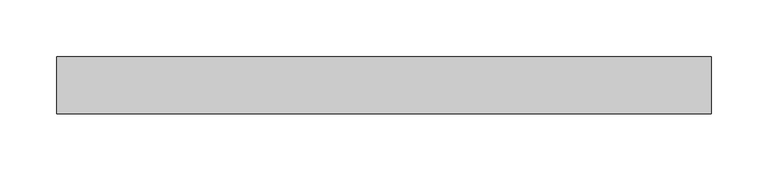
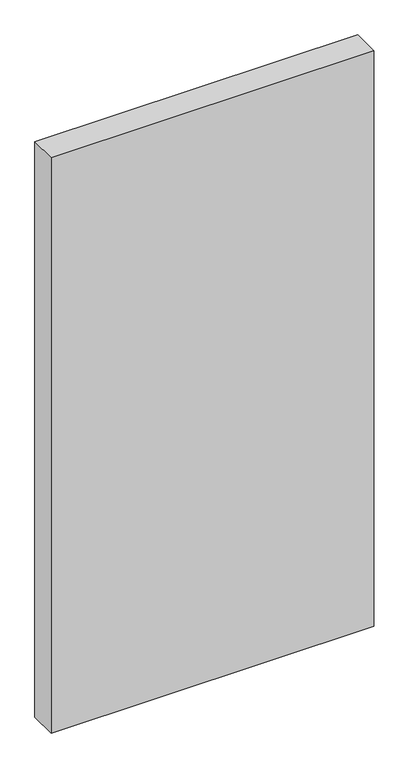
"""IFC4 building model written with IfcOpenShell, lengths in millimetres: plate geometry, Системная панель : Стекло(50мм)."""

import ifcopenshell
import ifcopenshell.guid

model = None  # the IFC model being written
_history = None  # IfcOwnerHistory: only IFC2X3 demands one
_inside = {}  # id of a spatial element -> (the spatial element, [elements in it])
_under = {}  # id of a project, library or spatial element -> (it, [spatial elements below it])
_declared = {}  # id of a project -> (the project, [libraries it declares])
_typed = {}  # id of a type object -> (the type object, [elements of that type])
_made_of = {}  # id of a material, layer set ... -> (it, [elements and type objects made of it])


def new_model(schema):
    """Start an empty IFC model of exactly this schema.

    Asked for "IFC4X3", IfcOpenShell would pick the latest addendum, in which some entities
    have other attributes; the version numbers below select the first issue.
    IFC2X3 requires an IfcOwnerHistory on every rooted entity: one is made here for all.
    """
    global model, _history
    if schema == "IFC4X3":
        model = ifcopenshell.file(schema_version=(4, 3, 0, 0))
    else:
        model = ifcopenshell.file(schema=schema)
    _inside.clear()
    _under.clear()
    _declared.clear()
    _typed.clear()
    _made_of.clear()
    _history = None
    if model.schema == "IFC2X3":
        org = make("IfcOrganization", Name="unknown")
        user = make(
            "IfcPersonAndOrganization",
            ThePerson=make("IfcPerson", FamilyName="unknown"),
            TheOrganization=org,
        )
        app = make(
            "IfcApplication",
            ApplicationDeveloper=org,
            Version="unknown",
            ApplicationFullName="unknown",
            ApplicationIdentifier="unknown",
        )
        _history = make(
            "IfcOwnerHistory",
            OwningUser=user,
            OwningApplication=app,
            ChangeAction="ADDED",
            CreationDate=0,
        )
    return model


def make(cls, **values):
    """One entity of the class cls with the attributes given. An attribute that is None is left unset."""
    return model.create_entity(
        cls, **{name: value for name, value in values.items() if value is not None}
    )


def rooted(cls, **values):
    """An entity with a GlobalId (a new one), such as an element, a storey or a relation."""
    return make(cls, GlobalId=ifcopenshell.guid.new(), OwnerHistory=_history, **values)


def si_unit(unit_type, name, prefix=None):
    """IfcSIUnit, for example si_unit("LENGTHUNIT", "METRE", prefix="MILLI")."""
    return make("IfcSIUnit", UnitType=unit_type, Prefix=prefix, Name=name)


def assignment(units):
    """IfcUnitAssignment: the units of a project."""
    return None if units is None else make("IfcUnitAssignment", Units=units)


def point(xyz):
    """IfcCartesianPoint."""
    return None if xyz is None else make("IfcCartesianPoint", Coordinates=xyz)


def direction(xyz):
    """IfcDirection."""
    return None if xyz is None else make("IfcDirection", DirectionRatios=xyz)


def frame(location, z_axis=None, x_axis=None):
    """IfcAxis2Placement3D, a coordinate frame: its origin and axes. An axis left out is left unset."""
    return make(
        "IfcAxis2Placement3D",
        Location=point(location),
        Axis=direction(z_axis),
        RefDirection=direction(x_axis),
    )


def origin():
    """The frame at (0, 0, 0) with its axes left unset."""
    return frame((0.0, 0.0, 0.0))


def origin_with_axes():
    """The frame at (0, 0, 0) with the z axis (0, 0, 1) and the x axis (1, 0, 0) written out."""
    return frame((0.0, 0.0, 0.0), z_axis=(0.0, 0.0, 1.0), x_axis=(1.0, 0.0, 0.0))


def place(relative_to, where):
    """IfcLocalPlacement: puts the frame where relative to a parent placement (None: the world)."""
    return make(
        "IfcLocalPlacement", PlacementRelTo=relative_to, RelativePlacement=where
    )


def context(
    kind, dimensions, precision=None, world=None, true_north=None, identifier=None
):
    """IfcGeometricRepresentationContext, for example the 3D "Model" context."""
    return make(
        "IfcGeometricRepresentationContext",
        ContextIdentifier=identifier,
        ContextType=kind,
        CoordinateSpaceDimension=dimensions,
        Precision=precision,
        WorldCoordinateSystem=world,
        TrueNorth=true_north,
    )


def project(units=None, contexts=None):
    """IfcProject with its units and contexts."""
    return rooted(
        "IfcProject",
        Name="project",
        RepresentationContexts=contexts,
        UnitsInContext=assignment(units),
    )


def spatial(cls, under=None, at=None, **own):
    """A site, building, storey or space (cls), placed at a placement, below another one or the project."""
    s = rooted(cls, ObjectPlacement=at, **own)
    if under is not None:
        _under.setdefault(under.id(), (under, []))[1].append(s)
    return s


def polyline(points):
    """IfcPolyline through the points."""
    return make("IfcPolyline", Points=[point(p) for p in points])


def outline(outer, holes=None, kind="AREA"):
    """IfcArbitraryClosedProfileDef: a profile drawn as a closed curve; with holes, ...WithVoids."""
    if holes is None:
        return make("IfcArbitraryClosedProfileDef", ProfileType=kind, OuterCurve=outer)
    return make(
        "IfcArbitraryProfileDefWithVoids",
        ProfileType=kind,
        OuterCurve=outer,
        InnerCurves=holes,
    )


def extrude(swept, where, along, depth):
    """IfcExtrudedAreaSolid: the profile swept, set in the frame where, extruded along a direction by depth."""
    return make(
        "IfcExtrudedAreaSolid",
        SweptArea=swept,
        Position=where,
        ExtrudedDirection=direction(along),
        Depth=depth,
    )


def shape(context_of_items, identifier, shape_type, items):
    """IfcShapeRepresentation: the items that make up one representation, for example the "Body"."""
    return make(
        "IfcShapeRepresentation",
        ContextOfItems=context_of_items,
        RepresentationIdentifier=identifier,
        RepresentationType=shape_type,
        Items=items,
    )


def source(mapping_origin, context_of_items, identifier, shape_type, items):
    """IfcRepresentationMap: a shape defined once, which mapped items show again and again."""
    return make(
        "IfcRepresentationMap",
        MappingOrigin=mapping_origin,
        MappedRepresentation=shape(context_of_items, identifier, shape_type, items),
    )


def transform(
    local_origin,
    x_axis=None,
    y_axis=None,
    z_axis=None,
    scale=None,
    scale2=None,
    scale3=None,
    uniform=True,
):
    """IfcCartesianTransformationOperator3D, or its non-uniform kind. x_axis, y_axis, z_axis: its Axis1, 2, 3."""
    if uniform:
        return make(
            "IfcCartesianTransformationOperator3D",
            Axis1=direction(x_axis),
            Axis2=direction(y_axis),
            LocalOrigin=point(local_origin),
            Scale=scale,
            Axis3=direction(z_axis),
        )
    return make(
        "IfcCartesianTransformationOperator3DnonUniform",
        Axis1=direction(x_axis),
        Axis2=direction(y_axis),
        LocalOrigin=point(local_origin),
        Scale=scale,
        Axis3=direction(z_axis),
        Scale2=scale2,
        Scale3=scale3,
    )


def mapped(mapping_source, mapping_target):
    """IfcMappedItem: shows the shape of a source again, moved by a transform."""
    return make(
        "IfcMappedItem", MappingSource=mapping_source, MappingTarget=mapping_target
    )


def made_of(thing, what):
    """Note that an element or type object is made of a material, layer set ...; save() writes the relation."""
    if what is not None:
        _made_of.setdefault(what.id(), (what, []))[1].append(thing)
    return thing


def element(
    cls,
    number,
    at=None,
    inside=None,
    cuts=None,
    type_object=None,
    material=None,
    context=None,
    identifier="Body",
    shape_type=None,
    held_by="IfcProductDefinitionShape",
    body=None,
    shapes=None,
    **own,
):
    """One element of the class cls, such as IfcWall. Its Tag is "e" and its number.

    at: its placement. inside: the storey or other place that contains it. cuts: it is an
    opening in that element (IfcRelVoidsElement). A single representation is given by context,
    identifier, shape_type and body (its items); several are given by shapes. held_by: the class
    of the entity that holds the representations. save() writes the other relations.
    """
    e = rooted(cls, Tag="e%d" % number, ObjectPlacement=at, **own)
    if body is not None:
        shapes = [shape(context, identifier, shape_type, body)]
    if shapes is not None:
        e.Representation = make(held_by, Representations=shapes)
    if inside is not None:
        _inside.setdefault(inside.id(), (inside, []))[1].append(e)
    if cuts is not None:
        rooted(
            "IfcRelVoidsElement", RelatingBuildingElement=cuts, RelatedOpeningElement=e
        )
    if type_object is not None:
        _typed.setdefault(type_object.id(), (type_object, []))[1].append(e)
    return made_of(e, material)


def aggregate(whole, parts):
    """IfcRelAggregates: a whole, such as a stair, and the parts it consists of."""
    return rooted("IfcRelAggregates", RelatingObject=whole, RelatedObjects=parts)


def save(model, path):
    """Write the relations noted so far, then the file.

    IfcRelAggregates (storeys below a building ...), IfcRelContainedInSpatialStructure (elements
    in a storey), IfcRelDefinesByType, IfcRelAssociatesMaterial and IfcRelDeclares: one each for
    every whole, place, type object, material and project.
    """
    for whole, parts in _under.values():
        aggregate(whole, parts)
    for where, things in _inside.values():
        rooted(
            "IfcRelContainedInSpatialStructure",
            RelatedElements=things,
            RelatingStructure=where,
        )
    for kind, things in _typed.values():
        rooted("IfcRelDefinesByType", RelatedObjects=things, RelatingType=kind)
    for what, things in _made_of.values():
        rooted("IfcRelAssociatesMaterial", RelatedObjects=things, RelatingMaterial=what)
    for by, libraries in _declared.values():
        rooted("IfcRelDeclares", RelatingContext=by, RelatedDefinitions=libraries)
    model.write(path)


def plate_20a5c04c(model_context):
    return source(origin(), model_context, "Body", "SweptSolid", [
        extrude(outline(polyline([(288.0564008, -25.0), (-288.0564008, -25.0), (-288.0564008, 25.0), (288.0564008, 25.0), (288.0564008, -25.0)])), origin_with_axes(), (0.0, 0.0, 1.0), 1085.0),
    ])


if __name__ == "__main__":
    model = new_model("IFC4")
    model_context = context("Model", 3, world=origin())
    ifc_project = project(units=[si_unit("LENGTHUNIT", "METRE", prefix="MILLI")], contexts=[model_context])
    site = spatial("IfcSite", under=ifc_project)
    building = spatial("IfcBuilding", under=site)
    placement = place(None, origin())
    plate_shape = plate_20a5c04c(model_context)
    element("IfcPlate", 1, ObjectType="Системная панель : Стекло(50мм)", at=placement, inside=building, context=model_context, shape_type="MappedRepresentation", body=[
        mapped(plate_shape, transform((0.0, 0.0, 0.0), x_axis=(1.0, 0.0, 0.0), y_axis=(0.0, 1.0, 0.0), z_axis=(0.0, 0.0, 1.0))),
    ])
    save(model, "model.ifc")
